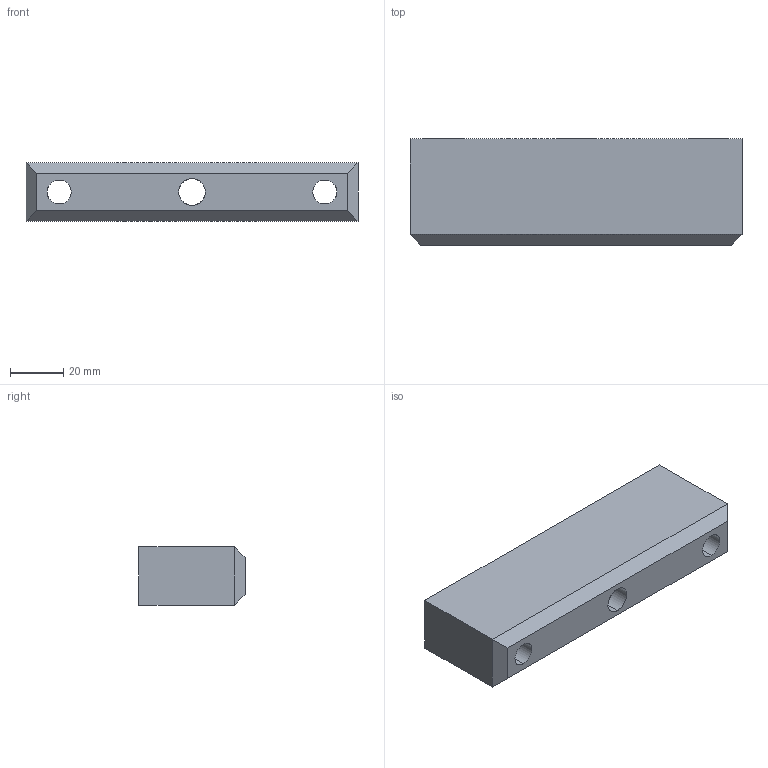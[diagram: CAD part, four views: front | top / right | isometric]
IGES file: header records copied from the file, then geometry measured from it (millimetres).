
Start section: START RECORD GO HERE.
Global section: file name: 761-040125.igs; native system: DASSAULT SYSTEMES CATIA V5 R20 - www.3ds.com; preprocessor: CATIA Version 5 Release 20 ; author: Utente; organization: NB04-ASUS; date: 20200411.173752; units: millimetre
Bounding box: 125 x 40 x 22 mm (x, y, z)
Surface area: 20531.3 mm2 (no closed solid volume)
Topology: 0 solids, 0 shells, 25 faces, 112 edges, 112 vertices
Faces by surface type: extrusion 13, revolution 12
